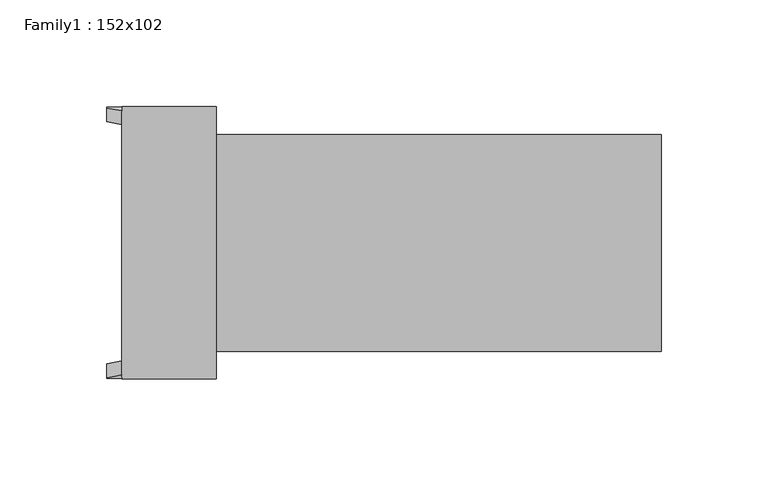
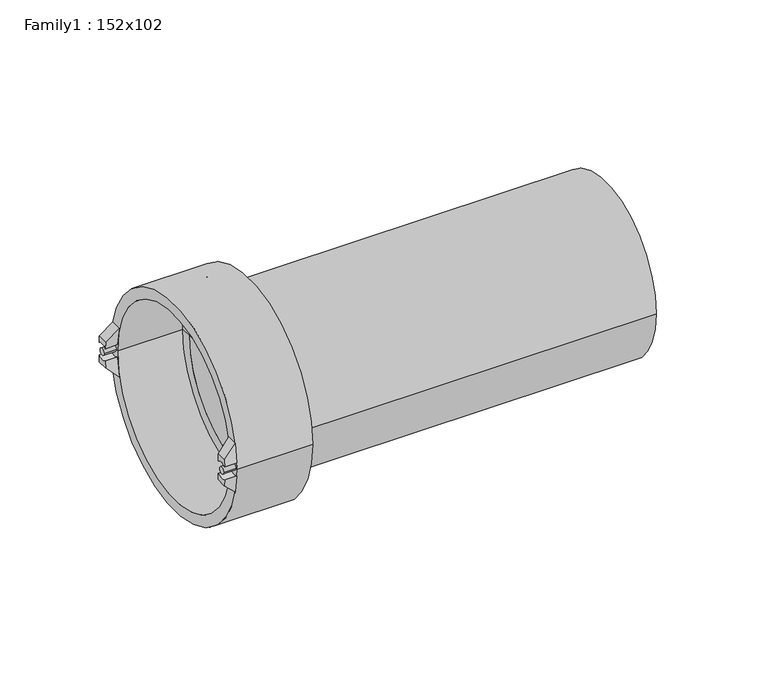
"""IFC4 building model written with IfcOpenShell, lengths in millimetres: proxy geometry, Family1 : 152x102."""

from ifc_helpers import new_model, si_unit, point, frame, frame_2d, origin, place, context, project, spatial, polyline, circle_curve, ellipse_curve, trimmed, segment, composite_curve, outline, extrude, source, transform, mapped, element, save
from ifc_brep_helpers import plane_surface, cylinder_surface, revolved_surface, advanced_brep


def family1_152x102_186b0d9e(model_context):
    return source(origin(), model_context, "Body", "SolidModel", [
        advanced_brep(
        [(-259.5, -57.2253926, 3.7784846), (-259.5, -63.5253926, 3.980829), (-259.5, -63.1528218, 7.94), (-259.5, -56.7977015, 7.94), (-252.4, -61.8572752, 15.0), (-252.4, -63.5253926, 3.980829), (-252.4, -57.2253926, 3.7784846), (-252.4, -55.3536133, 15.0)],
        [
            (0, 1, circle_curve(frame((-259.5, -60.5, 0.0), z_axis=(1.0, 0.0, 0.0), x_axis=(0.0, 1.0, 0.0)), 5.0)),
            (1, 2, circle_curve(frame((-259.5, 0.0, 0.0), z_axis=(-1.0, 0.0, 0.0), x_axis=(0.0, 1.0, 0.0)), 63.65)),
            (2, 3),
            (3, 0, circle_curve(frame((-259.5, 0.0, 0.0), z_axis=(1.0, 0.0, 0.0), x_axis=(0.0, 1.0, 0.0)), 57.35)),
            (4, 5, circle_curve(frame((-252.4, 0.0, 0.0), z_axis=(1.0, 0.0, 0.0), x_axis=(0.0, 1.0, 0.0)), 63.65)),
            (5, 6, circle_curve(frame((-252.4, -60.5, 0.0), z_axis=(-1.0, 0.0, 0.0), x_axis=(0.0, 1.0, 0.0)), 5.0)),
            (6, 7, circle_curve(frame((-252.4, 0.0, 0.0), z_axis=(-1.0, 0.0, 0.0), x_axis=(0.0, 1.0, 0.0)), 57.35)),
            (7, 4),
            (6, 0),
            (3, 7, ellipse_curve(frame((-267.4849858, 0.0, 0.0), z_axis=(-0.705106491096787, 0.0, 0.7091014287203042), x_axis=(0.7091014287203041, 0.0, 0.705106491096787)), 81.3352319, 57.35)),
            (4, 2, ellipse_curve(frame((-267.4849858, 0.0, 0.0), z_axis=(0.705106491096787, 0.0, -0.7091014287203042), x_axis=(-0.7091014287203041, 0.0, -0.705106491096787)), 90.2700525, 63.65)),
            (1, 5),
        ],
        [
            plane_surface(frame((-259.5, -61.8572752, 15.0), z_axis=(-1.0, 0.0, 0.0), x_axis=(0.0, 1.0, 0.0))),
            plane_surface(frame((-252.4, -61.8572752, 15.0), z_axis=(1.0, 0.0, 0.0), x_axis=(0.0, -1.0, 0.0))),
            revolved_surface(polyline([(-209.81005665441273, 57.35, 0.0), (-325.1599149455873, 57.35, 0.0)]), (-252.4, 0.0, 0.0), (1.0, 0.0, 0.0)),
            cylinder_surface(frame((-252.4, 0.0, 0.0), z_axis=(-1.0, 0.0, 0.0), x_axis=(0.0, 1.0, 0.0)), 63.65),
            revolved_surface(polyline([(-259.5, -55.5, 0.0), (-252.4, -55.5, 0.0)]), (-252.4, -60.5, 0.0), (-1.0, 0.0, 0.0)),
            plane_surface(frame((-252.4, 63.65, 15.0), z_axis=(-0.705106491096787, 0.0, 0.7091014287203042), x_axis=(0.0, -1.0, 0.0))),
        ],
        [
            (0, [[1, 2, 3, 4]]),
            (1, [[5, 6, 7, 8]]),
            (2, [[-7, 9, -4, 10]]),
            (3, [[-5, 11, -2, 12]]),
            (4, [[-1, -9, -6, -12]]),
            (5, [[-3, -11, -8, -10]]),
        ],
    ),
        advanced_brep(
        [(-259.5, -63.5253926, -3.980829), (-259.5, -57.2253926, -3.7784846), (-259.5, -56.7977015, -7.94), (-259.5, -63.1528218, -7.94), (-252.4, -63.5253926, -3.980829), (-252.4, -61.8572752, -15.0), (-252.4, -55.3536133, -15.0), (-252.4, -57.2253926, -3.7784846)],
        [
            (0, 1, circle_curve(frame((-259.5, -60.5, 0.0), z_axis=(1.0, 0.0, 0.0), x_axis=(0.0, 1.0, 0.0)), 5.0)),
            (1, 2, circle_curve(frame((-259.5, 0.0, 0.0), z_axis=(1.0, 0.0, 0.0), x_axis=(0.0, 1.0, 0.0)), 57.35)),
            (2, 3),
            (3, 0, circle_curve(frame((-259.5, 0.0, 0.0), z_axis=(-1.0, 0.0, 0.0), x_axis=(0.0, 1.0, 0.0)), 63.65)),
            (4, 5, circle_curve(frame((-252.4, 0.0, 0.0), z_axis=(1.0, 0.0, 0.0), x_axis=(0.0, 1.0, 0.0)), 63.65)),
            (5, 6),
            (6, 7, circle_curve(frame((-252.4, 0.0, 0.0), z_axis=(-1.0, 0.0, 0.0), x_axis=(0.0, 1.0, 0.0)), 57.35)),
            (7, 4, circle_curve(frame((-252.4, -60.5, 0.0), z_axis=(-1.0, 0.0, 0.0), x_axis=(0.0, 1.0, 0.0)), 5.0)),
            (6, 2, ellipse_curve(frame((-267.4849858, 0.0, 0.0), z_axis=(-0.7051064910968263, 0.0, -0.7091014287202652), x_axis=(0.7091014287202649, 0.0, -0.7051064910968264)), 81.3352319, 57.35)),
            (1, 7),
            (4, 0),
            (3, 5, ellipse_curve(frame((-267.4849858, 0.0, 0.0), z_axis=(0.7051064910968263, 0.0, 0.7091014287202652), x_axis=(-0.7091014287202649, 0.0, 0.7051064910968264)), 90.2700525, 63.65)),
        ],
        [
            plane_surface(frame((-259.5, -61.8572752, 15.0), z_axis=(-1.0, 0.0, 0.0), x_axis=(0.0, 1.0, 0.0))),
            plane_surface(frame((-252.4, -61.8572752, 15.0), z_axis=(1.0, 0.0, 0.0), x_axis=(0.0, -1.0, 0.0))),
            revolved_surface(polyline([(-209.81005665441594, 57.35, 0.0), (-325.1599149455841, 57.35, 0.0)]), (-252.4, 0.0, 0.0), (1.0, 0.0, 0.0)),
            cylinder_surface(frame((-252.4, 0.0, 0.0), z_axis=(-1.0, 0.0, 0.0), x_axis=(0.0, 1.0, 0.0)), 63.65),
            revolved_surface(polyline([(-259.5, -55.5, 0.0), (-252.4, -55.5, 0.0)]), (-252.4, -60.5, 0.0), (-1.0, 0.0, 0.0)),
            plane_surface(frame((-259.5, 63.65, -7.94), z_axis=(-0.7051064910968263, 0.0, -0.7091014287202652), x_axis=(0.0, -1.0, 0.0))),
        ],
        [
            (0, [[1, 2, 3, 4]]),
            (1, [[5, 6, 7, 8]]),
            (2, [[-7, 9, -2, 10]]),
            (3, [[-5, 11, -4, 12]]),
            (4, [[-1, -11, -8, -10]]),
            (5, [[-3, -9, -6, -12]]),
        ],
    ),
        advanced_brep(
        [(-259.5, 63.5253926, 3.980829), (-259.5, 57.2253926, 3.7784846), (-259.5, 56.7977015, 7.94), (-259.5, 63.1528218, 7.94), (-252.4, 63.5253926, 3.980829), (-252.4, 61.8572752, 15.0), (-252.4, 55.3536133, 15.0), (-252.4, 57.2253926, 3.7784846)],
        [
            (0, 1, circle_curve(frame((-259.5, 60.5, 0.0), z_axis=(1.0, 0.0, 0.0), x_axis=(0.0, 1.0, 0.0)), 5.0)),
            (1, 2, circle_curve(frame((-259.5, 0.0, 0.0), z_axis=(1.0, 0.0, 0.0), x_axis=(0.0, 1.0, 0.0)), 57.35)),
            (2, 3),
            (3, 0, circle_curve(frame((-259.5, 0.0, 0.0), z_axis=(-1.0, 0.0, 0.0), x_axis=(0.0, 1.0, 0.0)), 63.65)),
            (4, 5, circle_curve(frame((-252.4, 0.0, 0.0), z_axis=(1.0, 0.0, 0.0), x_axis=(0.0, 1.0, 0.0)), 63.65)),
            (5, 6),
            (6, 7, circle_curve(frame((-252.4, 0.0, 0.0), z_axis=(-1.0, 0.0, 0.0), x_axis=(0.0, 1.0, 0.0)), 57.35)),
            (7, 4, circle_curve(frame((-252.4, 60.5, 0.0), z_axis=(-1.0, 0.0, 0.0), x_axis=(0.0, 1.0, 0.0)), 5.0)),
            (6, 2, ellipse_curve(frame((-267.4849858, 0.0, 0.0), z_axis=(-0.705106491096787, 0.0, 0.7091014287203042), x_axis=(0.7091014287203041, 0.0, 0.705106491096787)), 81.3352319, 57.35)),
            (1, 7),
            (4, 0),
            (3, 5, ellipse_curve(frame((-267.4849858, 0.0, 0.0), z_axis=(0.705106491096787, 0.0, -0.7091014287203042), x_axis=(-0.7091014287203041, 0.0, -0.705106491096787)), 90.2700525, 63.65)),
        ],
        [
            plane_surface(frame((-259.5, -61.8572752, 15.0), z_axis=(-1.0, 0.0, 0.0), x_axis=(0.0, 1.0, 0.0))),
            plane_surface(frame((-252.4, -61.8572752, 15.0), z_axis=(1.0, 0.0, 0.0), x_axis=(0.0, -1.0, 0.0))),
            revolved_surface(polyline([(-209.81005665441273, 57.35, 0.0), (-325.1599149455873, 57.35, 0.0)]), (-252.4, 0.0, 0.0), (1.0, 0.0, 0.0)),
            cylinder_surface(frame((-252.4, 0.0, 0.0), z_axis=(-1.0, 0.0, 0.0), x_axis=(0.0, 1.0, 0.0)), 63.65),
            revolved_surface(polyline([(-259.5, 65.5, 0.0), (-252.4, 65.5, 0.0)]), (-252.4, 60.5, 0.0), (-1.0, 0.0, 0.0)),
            plane_surface(frame((-252.4, 63.65, 15.0), z_axis=(-0.705106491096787, 0.0, 0.7091014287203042), x_axis=(0.0, -1.0, 0.0))),
        ],
        [
            (0, [[1, 2, 3, 4]]),
            (1, [[5, 6, 7, 8]]),
            (2, [[-7, 9, -2, 10]]),
            (3, [[-5, 11, -4, 12]]),
            (4, [[-1, -11, -8, -10]]),
            (5, [[-3, -9, -6, -12]]),
        ],
    ),
        advanced_brep(
        [(-259.5, 57.2253926, -3.7784846), (-259.5, 63.5253926, -3.980829), (-259.5, 63.1528218, -7.94), (-259.5, 56.7977015, -7.94), (-252.4, 61.8572752, -15.0), (-252.4, 63.5253926, -3.980829), (-252.4, 57.2253926, -3.7784846), (-252.4, 55.3536133, -15.0)],
        [
            (0, 1, circle_curve(frame((-259.5, 60.5, 0.0), z_axis=(1.0, 0.0, 0.0), x_axis=(0.0, 1.0, 0.0)), 5.0)),
            (1, 2, circle_curve(frame((-259.5, 0.0, 0.0), z_axis=(-1.0, 0.0, 0.0), x_axis=(0.0, 1.0, 0.0)), 63.65)),
            (2, 3),
            (3, 0, circle_curve(frame((-259.5, 0.0, 0.0), z_axis=(1.0, 0.0, 0.0), x_axis=(0.0, 1.0, 0.0)), 57.35)),
            (4, 5, circle_curve(frame((-252.4, 0.0, 0.0), z_axis=(1.0, 0.0, 0.0), x_axis=(0.0, 1.0, 0.0)), 63.65)),
            (5, 6, circle_curve(frame((-252.4, 60.5, 0.0), z_axis=(-1.0, 0.0, 0.0), x_axis=(0.0, 1.0, 0.0)), 5.0)),
            (6, 7, circle_curve(frame((-252.4, 0.0, 0.0), z_axis=(-1.0, 0.0, 0.0), x_axis=(0.0, 1.0, 0.0)), 57.35)),
            (7, 4),
            (6, 0),
            (3, 7, ellipse_curve(frame((-267.4849858, 0.0, 0.0), z_axis=(-0.7051064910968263, 0.0, -0.7091014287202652), x_axis=(0.7091014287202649, 0.0, -0.7051064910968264)), 81.3352319, 57.35)),
            (4, 2, ellipse_curve(frame((-267.4849858, 0.0, 0.0), z_axis=(0.7051064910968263, 0.0, 0.7091014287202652), x_axis=(-0.7091014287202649, 0.0, 0.7051064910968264)), 90.2700525, 63.65)),
            (1, 5),
        ],
        [
            plane_surface(frame((-259.5, -61.8572752, 15.0), z_axis=(-1.0, 0.0, 0.0), x_axis=(0.0, 1.0, 0.0))),
            plane_surface(frame((-252.4, -61.8572752, 15.0), z_axis=(1.0, 0.0, 0.0), x_axis=(0.0, -1.0, 0.0))),
            revolved_surface(polyline([(-209.81005665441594, 57.35, 0.0), (-325.1599149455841, 57.35, 0.0)]), (-252.4, 0.0, 0.0), (1.0, 0.0, 0.0)),
            cylinder_surface(frame((-252.4, 0.0, 0.0), z_axis=(-1.0, 0.0, 0.0), x_axis=(0.0, 1.0, 0.0)), 63.65),
            revolved_surface(polyline([(-259.5, 65.5, 0.0), (-252.4, 65.5, 0.0)]), (-252.4, 60.5, 0.0), (-1.0, 0.0, 0.0)),
            plane_surface(frame((-259.5, 63.65, -7.94), z_axis=(-0.7051064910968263, 0.0, -0.7091014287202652), x_axis=(0.0, -1.0, 0.0))),
        ],
        [
            (0, [[1, 2, 3, 4]]),
            (1, [[5, 6, 7, 8]]),
            (2, [[-7, 9, -4, 10]]),
            (3, [[-5, 11, -2, 12]]),
            (4, [[-1, -9, -6, -12]]),
            (5, [[-3, -11, -8, -10]]),
        ],
    ),
        extrude(outline(composite_curve([segment(trimmed(circle_curve(frame_2d((-60.5, 0.0)), 2.0), [point((-62.5, 0.0))], [point((-58.5, 0.0))], False, "CARTESIAN"), True, "CONTINUOUS"), segment(trimmed(circle_curve(frame_2d((-60.5, 0.0)), 2.0), [point((-58.5, 0.0))], [point((-62.5, 0.0))], False, "CARTESIAN"), True, "CONTINUOUS")], self_intersect=False)), frame((-259.5, 0.0, 0.0), z_axis=(1.0, 0.0, 0.0), x_axis=(0.0, 1.0, 0.0)), (0.0, 0.0, 1.0), 7.1),
        extrude(outline(composite_curve([segment(trimmed(circle_curve(frame_2d((60.5, 0.0)), 2.0), [point((58.5, 0.0))], [point((62.5, 0.0))], False, "CARTESIAN"), True, "CONTINUOUS"), segment(trimmed(circle_curve(frame_2d((60.5, 0.0)), 2.0), [point((62.5, 0.0))], [point((58.5, 0.0))], False, "CARTESIAN"), True, "CONTINUOUS")], self_intersect=False)), frame((-259.5, 0.0, 0.0), z_axis=(1.0, 0.0, 0.0), x_axis=(0.0, 1.0, 0.0)), (0.0, 0.0, 1.0), 7.1),
        advanced_brep(
        [(-214.3, -50.8, 0.0), (-214.3, 50.8, 0.0), (-214.3, 57.2, 0.0), (-214.3, -57.2, 0.0), (-208.3, -50.8, 0.0), (-208.3, 50.8, 0.0), (-208.3, -63.8, 0.0), (-208.3, 63.8, 0.0), (-252.4, -63.8, 0.0), (-252.4, 63.8, 0.0), (-252.4, -57.2, 0.0), (-252.4, 57.2, 0.0)],
        [
            (0, 1, circle_curve(frame((-214.3, 0.0, 0.0), z_axis=(1.0, 0.0, 0.0), x_axis=(0.0, 1.0, 0.0)), 50.8)),
            (1, 2),
            (2, 3, circle_curve(frame((-214.3, 0.0, 0.0), z_axis=(-1.0, 0.0, 0.0), x_axis=(0.0, 1.0, 0.0)), 57.2)),
            (3, 0),
            (1, 0, circle_curve(frame((-214.3, 0.0, 0.0), z_axis=(1.0, 0.0, 0.0), x_axis=(0.0, 1.0, 0.0)), 50.8)),
            (3, 2, circle_curve(frame((-214.3, 0.0, 0.0), z_axis=(-1.0, 0.0, 0.0), x_axis=(0.0, 1.0, 0.0)), 57.2)),
            (4, 5, circle_curve(frame((-208.3, 0.0, 0.0), z_axis=(1.0, 0.0, 0.0), x_axis=(0.0, 1.0, 0.0)), 50.8)),
            (5, 1),
            (0, 4),
            (5, 4, circle_curve(frame((-208.3, 0.0, 0.0), z_axis=(1.0, 0.0, 0.0), x_axis=(0.0, 1.0, 0.0)), 50.8)),
            (6, 7, circle_curve(frame((-208.3, 0.0, 0.0), z_axis=(1.0, 0.0, 0.0), x_axis=(0.0, 1.0, 0.0)), 63.8)),
            (7, 5),
            (4, 6),
            (7, 6, circle_curve(frame((-208.3, 0.0, 0.0), z_axis=(1.0, 0.0, 0.0), x_axis=(0.0, 1.0, 0.0)), 63.8)),
            (8, 9, circle_curve(frame((-252.4, 0.0, 0.0), z_axis=(1.0, 0.0, 0.0), x_axis=(0.0, 1.0, 0.0)), 63.8)),
            (9, 7),
            (6, 8),
            (9, 8, circle_curve(frame((-252.4, 0.0, 0.0), z_axis=(1.0, 0.0, 0.0), x_axis=(0.0, 1.0, 0.0)), 63.8)),
            (10, 11, circle_curve(frame((-252.4, 0.0, 0.0), z_axis=(1.0, 0.0, 0.0), x_axis=(0.0, 1.0, 0.0)), 57.2)),
            (11, 9),
            (8, 10),
            (11, 10, circle_curve(frame((-252.4, 0.0, 0.0), z_axis=(1.0, 0.0, 0.0), x_axis=(0.0, 1.0, 0.0)), 57.2)),
            (2, 11),
            (10, 3),
        ],
        [
            plane_surface(frame((-214.3, 0.0, 0.0), z_axis=(-1.0, 0.0, 0.0), x_axis=(0.0, 1.0, 0.0))),
            revolved_surface(polyline([(-214.30000000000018, 50.8, 0.0), (-208.30000000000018, 50.8, 0.0)]), (-2766.3826241, 0.0, 0.0), (-1.0, 0.0, 0.0)),
            plane_surface(frame((-208.3, 0.0, 0.0), z_axis=(1.0, 0.0, 0.0), x_axis=(0.0, 1.0, 0.0))),
            cylinder_surface(frame((-2766.3826241, 0.0, 0.0), z_axis=(-1.0, 0.0, 0.0), x_axis=(0.0, 1.0, 0.0)), 63.8),
            plane_surface(frame((-252.4, 0.0, 0.0), z_axis=(-1.0, 0.0, 0.0), x_axis=(0.0, 1.0, 0.0))),
            revolved_surface(polyline([(-252.4000000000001, 57.2, 0.0), (-214.30000000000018, 57.2, 0.0)]), (-2766.3826241, 0.0, 0.0), (-1.0, 0.0, 0.0)),
        ],
        [
            (0, [[1, 2, 3, 4]]),
            (0, [[5, -4, 6, -2]]),
            (1, [[7, 8, -1, 9]]),
            (1, [[10, -9, -5, -8]]),
            (2, [[11, 12, -7, 13]]),
            (2, [[14, -13, -10, -12]]),
            (3, [[15, 16, -11, 17]]),
            (3, [[18, -17, -14, -16]]),
            (4, [[19, 20, -15, 21]]),
            (4, [[22, -21, -18, -20]]),
            (5, [[-3, 23, -19, 24]]),
            (5, [[-6, -24, -22, -23]]),
        ],
    ),
        advanced_brep(
        [(0.0, -50.8, 0.0), (0.0, 50.8, 0.0), (0.0, 0.0, 0.0), (-214.3, -50.8, 0.0), (-214.3, 50.8, 0.0), (-214.3, 0.0, 0.0)],
        [
            (0, 1, circle_curve(frame((0.0, 0.0, 0.0), z_axis=(1.0, 0.0, 0.0), x_axis=(0.0, 1.0, 0.0)), 50.8)),
            (1, 2),
            (2, 0),
            (1, 0, circle_curve(frame((0.0, 0.0, 0.0), z_axis=(1.0, 0.0, 0.0), x_axis=(0.0, 1.0, 0.0)), 50.8)),
            (3, 4, circle_curve(frame((-214.3, 0.0, 0.0), z_axis=(1.0, 0.0, 0.0), x_axis=(0.0, 1.0, 0.0)), 50.8)),
            (4, 1),
            (0, 3),
            (4, 3, circle_curve(frame((-214.3, 0.0, 0.0), z_axis=(1.0, 0.0, 0.0), x_axis=(0.0, 1.0, 0.0)), 50.8)),
            (5, 4),
            (3, 5),
        ],
        [
            plane_surface(frame((0.0, 0.0, 0.0), z_axis=(1.0, 0.0, 0.0), x_axis=(0.0, 1.0, 0.0))),
            cylinder_surface(frame((25.0, 0.0, 0.0), z_axis=(-1.0, 0.0, 0.0), x_axis=(0.0, 1.0, 0.0)), 50.8),
            plane_surface(frame((-214.3, 0.0, 0.0), z_axis=(-1.0, 0.0, 0.0), x_axis=(0.0, 1.0, 0.0))),
        ],
        [
            (0, [[1, 2, 3]]),
            (0, [[4, -3, -2]]),
            (1, [[5, 6, -1, 7]]),
            (1, [[8, -7, -4, -6]]),
            (2, [[9, -5, 10]]),
            (2, [[-10, -8, -9]]),
        ],
    ),
    ])


if __name__ == "__main__":
    model = new_model("IFC4")
    model_context = context("Model", 3, world=origin())
    ifc_project = project(units=[si_unit("LENGTHUNIT", "METRE", prefix="MILLI")], contexts=[model_context])
    site = spatial("IfcSite", under=ifc_project)
    building = spatial("IfcBuilding", under=site)
    placement = place(None, origin())
    family1_152x102_shape = family1_152x102_186b0d9e(model_context)
    element("IfcBuildingElementProxy", 1, Name="Family1 : 152x102", ObjectType="Family1 : 152x102", at=placement, inside=building, context=model_context, shape_type="MappedRepresentation", body=[
        mapped(family1_152x102_shape, transform((0.0, 0.0, 0.0), x_axis=(1.0, 0.0, 0.0), y_axis=(0.0, 1.0, 0.0), z_axis=(0.0, 0.0, 1.0))),
    ])
    save(model, "model.ifc")
